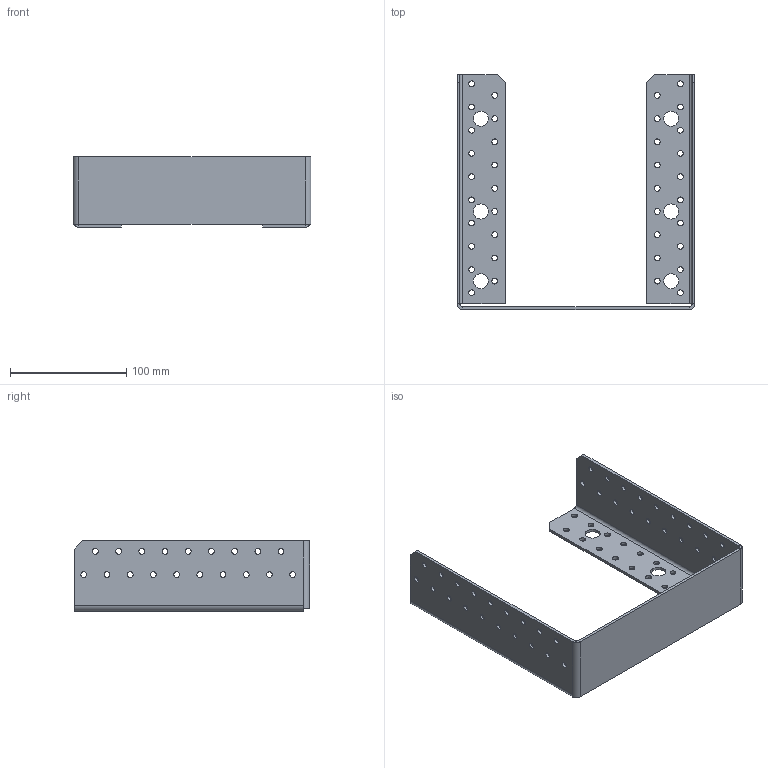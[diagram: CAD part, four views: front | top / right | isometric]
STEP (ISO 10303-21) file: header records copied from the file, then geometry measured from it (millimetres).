
FILE_DESCRIPTION (( 'STEP AP203' ), '1' );
FILE_NAME ('40527IKO.STEP', '2021-04-16T10:01:53', ( '' ), ( '' ), 'SwSTEP 2.0', 'SolidWorks 2013', '' );
FILE_SCHEMA (( 'CONFIG_CONTROL_DESIGN' ));
Length unit declared in the file: millimetre
Products named in the file (1): 40527IKO
Bounding box: 205 x 202.5 x 60.5 mm (x, y, z)
Volume: 120683.5 mm3; surface area: 103802.9 mm2
Topology: 1 solids, 1 shells, 208 faces, 588 edges, 382 vertices
Faces by surface type: cylinder 172, plane 36
Entity records: 7303 total; most frequent: DIRECTION 1352, CARTESIAN_POINT 1179, ORIENTED_EDGE 1176, EDGE_CURVE 588, AXIS2_PLACEMENT_3D 555, VERTEX_POINT 382, EDGE_LOOP 372, CIRCLE 346
